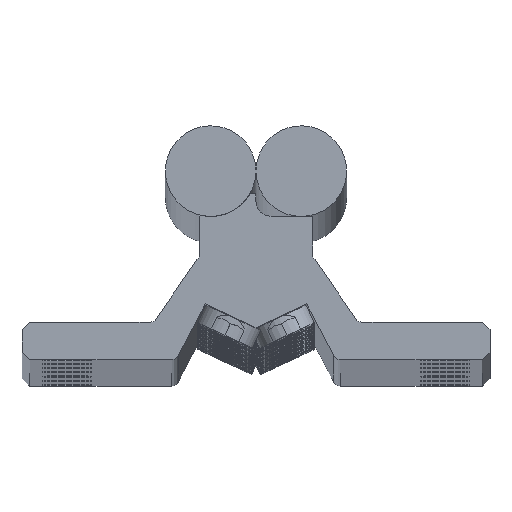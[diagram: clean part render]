
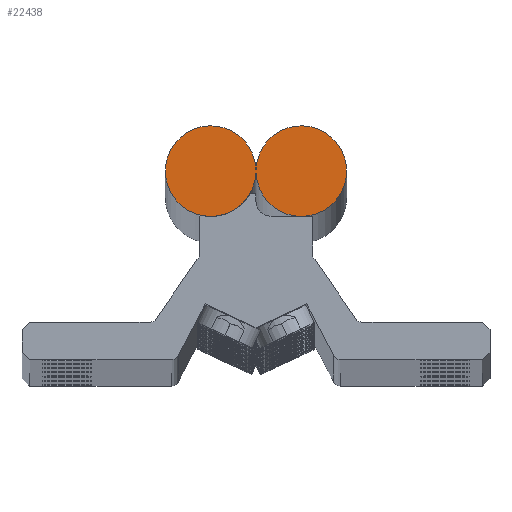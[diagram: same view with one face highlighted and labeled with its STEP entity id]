
A CAD part, top view. The second image highlights one B-rep face of the part: STEP entity #22438.
In plain terms, the highlighted planar face has unit normal (0, 0, 1).
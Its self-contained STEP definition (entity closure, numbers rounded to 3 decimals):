
#2368 = VERTEX_POINT ( 'NONE', #13183 ) ;
#2429 = EDGE_CURVE ( 'NONE', #2430, #2368, #13359, .T. ) ;
#2430 = VERTEX_POINT ( 'NONE', #13354 ) ;
#13183 = CARTESIAN_POINT ( 'NONE',  ( 12., 25., 1. ) ) ;
#13354 = CARTESIAN_POINT ( 'NONE',  ( 0.005, 24.75, 1. ) ) ;
#13355 = DIRECTION ( 'NONE',  ( 1., 0., 0. ) ) ;
#13356 = DIRECTION ( 'NONE',  ( 0., 0., 1. ) ) ;
#13357 = CARTESIAN_POINT ( 'NONE',  ( 6., 25., 1. ) ) ;
#13358 = AXIS2_PLACEMENT_3D ( 'NONE', #13357, #13356, #13355 ) ;
#13359 = CIRCLE ( 'NONE', #13358, 6. ) ;
#21719 = EDGE_CURVE ( 'NONE', #2368, #21779, #24673, .T. ) ;
#21779 = VERTEX_POINT ( 'NONE', #24697 ) ;
#22325 = EDGE_CURVE ( 'NONE', #22328, #2430, #24737, .T. ) ;
#22328 = VERTEX_POINT ( 'NONE', #24733 ) ;
#22346 = EDGE_CURVE ( 'NONE', #22350, #22328, #24787, .T. ) ;
#22350 = VERTEX_POINT ( 'NONE', #24782 ) ;
#22438 = ADVANCED_FACE ( 'NONE', ( #24807 ), #24812, .T. ) ;
#22442 = EDGE_LOOP ( 'NONE', ( #22445, #22448, #22452, #22454, #22455 ) ) ;
#22445 = ORIENTED_EDGE ( 'NONE', *, *, #2429, .T. ) ;
#22448 = ORIENTED_EDGE ( 'NONE', *, *, #21719, .T. ) ;
#22452 = ORIENTED_EDGE ( 'NONE', *, *, #22464, .T. ) ;
#22454 = ORIENTED_EDGE ( 'NONE', *, *, #22346, .T. ) ;
#22455 = ORIENTED_EDGE ( 'NONE', *, *, #22325, .T. ) ;
#22464 = EDGE_CURVE ( 'NONE', #21779, #22350, #24796, .T. ) ;
#24669 = DIRECTION ( 'NONE',  ( 1., 0., 0. ) ) ;
#24670 = DIRECTION ( 'NONE',  ( 0., 0., 1. ) ) ;
#24671 = CARTESIAN_POINT ( 'NONE',  ( 6., 25., 1. ) ) ;
#24672 = AXIS2_PLACEMENT_3D ( 'NONE', #24671, #24670, #24669 ) ;
#24673 = CIRCLE ( 'NONE', #24672, 6. ) ;
#24697 = CARTESIAN_POINT ( 'NONE',  ( 0.005, 25.25, 1. ) ) ;
#24733 = CARTESIAN_POINT ( 'NONE',  ( -0.005, 24.75, 1. ) ) ;
#24734 = DIRECTION ( 'NONE',  ( 1., 0., 0. ) ) ;
#24735 = VECTOR ( 'NONE', #24734, 1000. ) ;
#24736 = CARTESIAN_POINT ( 'NONE',  ( -0.005, 24.75, 1. ) ) ;
#24737 = LINE ( 'NONE', #24736, #24735 ) ;
#24782 = CARTESIAN_POINT ( 'NONE',  ( -0.005, 25.25, 1. ) ) ;
#24783 = DIRECTION ( 'NONE',  ( 1., 0., 0. ) ) ;
#24784 = DIRECTION ( 'NONE',  ( 0., 0., 1. ) ) ;
#24785 = CARTESIAN_POINT ( 'NONE',  ( -6., 25., 1. ) ) ;
#24786 = AXIS2_PLACEMENT_3D ( 'NONE', #24785, #24784, #24783 ) ;
#24787 = CIRCLE ( 'NONE', #24786, 6. ) ;
#24793 = DIRECTION ( 'NONE',  ( -1., 0., 0. ) ) ;
#24794 = VECTOR ( 'NONE', #24793, 1000. ) ;
#24795 = CARTESIAN_POINT ( 'NONE',  ( 0.005, 25.25, 1. ) ) ;
#24796 = LINE ( 'NONE', #24795, #24794 ) ;
#24803 = DIRECTION ( 'NONE',  ( 1., 0., 0. ) ) ;
#24804 = DIRECTION ( 'NONE',  ( 0., 0., 1. ) ) ;
#24805 = CARTESIAN_POINT ( 'NONE',  ( 6., 25., 1. ) ) ;
#24806 = AXIS2_PLACEMENT_3D ( 'NONE', #24805, #24804, #24803 ) ;
#24807 = FACE_OUTER_BOUND ( 'NONE', #22442, .T. ) ;
#24812 = PLANE ( 'NONE',  #24806 ) ;
